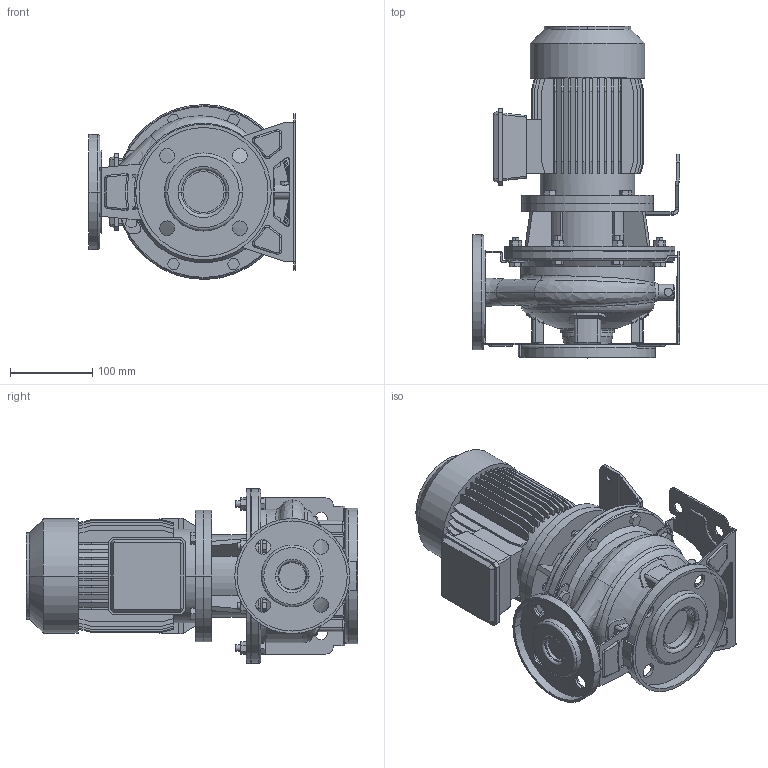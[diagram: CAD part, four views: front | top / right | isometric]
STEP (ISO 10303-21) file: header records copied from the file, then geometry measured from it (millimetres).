
FILE_DESCRIPTION((''),'2;1');
FILE_NAME('3S4_32-125_0_25_IE1_ASM','2016-09-23T',('rosa'),('"Ebara Pumps Europe +39.444.706811"'),'PRO/ENGINEER BY PARAMETRIC TECHNOLOGY CORPORATION, 2012130','PRO/ENGINEER BY PARAMETRIC TECHNOLOGY CORPORATION, 2012130','');
FILE_SCHEMA(('AUTOMOTIVE_DESIGN { 1 0 10303 214 1 1 1 1 }'));
Length unit declared in the file: millimetre
Products named in the file (11): MOTORE_71_0_25-0_37_KW_4POLI_B5; SUPPORTO_3S_160_71; SOSTEGNO_3S_72016; CORPO_32-125_AF1; ASP_32-125; FLANGIA_DIN_50; MAND_32-125; FLANGIA_DIN_32; BASE_3M_32-125; CORPO_SALDATO_32-125_ASM; 3S4_32-125_0_25_IE1_ASM
Assembly tree (10 placements, depth 3):
  3S4_32-125_0_25_IE1_ASM
    MOTORE_71_0_25-0_37_KW_4POLI_B5
    SUPPORTO_3S_160_71
    SOSTEGNO_3S_72016
    CORPO_SALDATO_32-125_ASM
      CORPO_32-125_AF1
      ASP_32-125
      FLANGIA_DIN_50
      MAND_32-125
      FLANGIA_DIN_32
      BASE_3M_32-125
Bounding box: 252 x 404 x 212.96 mm (x, y, z)
Volume: 5782263.2 mm3; surface area: 802579.8 mm2
Topology: 12 solids, 12 shells, 1052 faces, 2714 edges, 1781 vertices
Faces by surface type: plane 644, cylinder 290, torus 54, bspline 34, cone 24, sphere 6
Entity records: 44723 total; most frequent: CARTESIAN_POINT 8488, DIRECTION 5527, ORIENTED_EDGE 5412, EDGE_CURVE 2706, PRESENTATION_STYLE_ASSIGNMENT 2585, STYLED_ITEM 2585, CURVE_STYLE 2574, AXIS2_PLACEMENT_3D 1885
